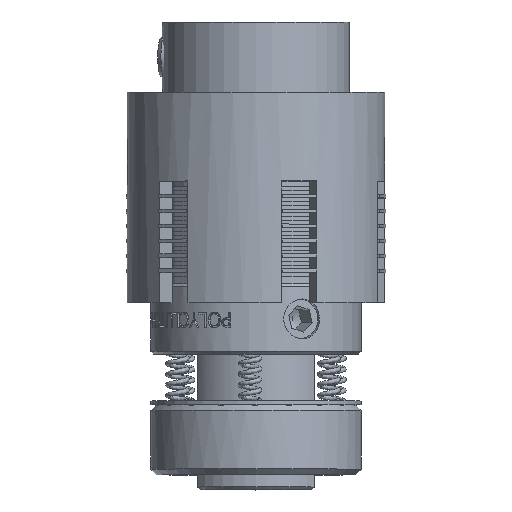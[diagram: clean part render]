
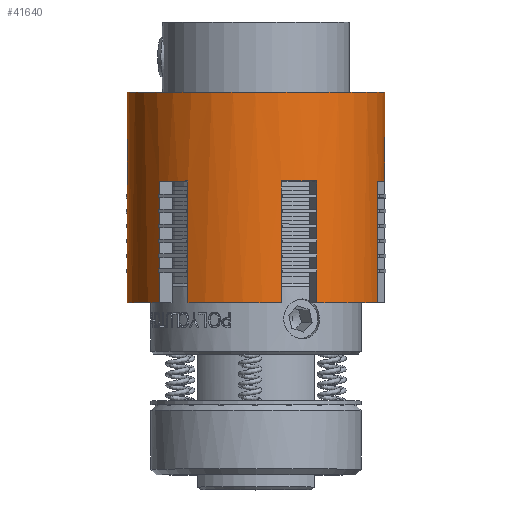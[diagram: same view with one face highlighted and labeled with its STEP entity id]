
A CAD part, top view. The second image highlights one B-rep face of the part: STEP entity #41640.
In plain terms, the highlighted cylindrical face has radius 17.462 mm (diameter 34.925 mm), a full revolution.
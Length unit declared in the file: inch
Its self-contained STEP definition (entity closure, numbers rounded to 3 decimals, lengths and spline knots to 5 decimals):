
#41060=CARTESIAN_POINT('',(0.63906,0.475,-0.25349));
#41061=VERTEX_POINT('',#41060);
#41062=CARTESIAN_POINT('',(0.63906,1.125,-0.25349));
#41063=VERTEX_POINT('',#41062);
#41064=CARTESIAN_POINT('',(0.63906,0.475,-0.25349));
#41065=DIRECTION('',(0.0,1.0,0.0));
#41066=VECTOR('',#41065,0.65);
#41067=LINE('',#41064,#41066);
#41068=EDGE_CURVE('',#41061,#41063,#41067,.T.);
#41100=CARTESIAN_POINT('',(0.53906,0.475,0.4267));
#41101=VERTEX_POINT('',#41100);
#41102=CARTESIAN_POINT('',(0.53906,1.125,0.4267));
#41103=VERTEX_POINT('',#41102);
#41104=CARTESIAN_POINT('',(0.53906,0.475,0.4267));
#41105=DIRECTION('',(0.0,1.0,0.0));
#41106=VECTOR('',#41105,0.65);
#41107=LINE('',#41104,#41106);
#41108=EDGE_CURVE('',#41101,#41103,#41107,.T.);
#41140=CARTESIAN_POINT('',(-0.63906,0.475,0.25349));
#41141=VERTEX_POINT('',#41140);
#41142=CARTESIAN_POINT('',(-0.63906,1.125,0.25349));
#41143=VERTEX_POINT('',#41142);
#41144=CARTESIAN_POINT('',(-0.63906,0.475,0.25349));
#41145=DIRECTION('',(0.0,1.0,0.0));
#41146=VECTOR('',#41145,0.65);
#41147=LINE('',#41144,#41146);
#41148=EDGE_CURVE('',#41141,#41143,#41147,.T.);
#41180=CARTESIAN_POINT('',(-0.53906,0.475,-0.4267));
#41181=VERTEX_POINT('',#41180);
#41182=CARTESIAN_POINT('',(-0.53906,1.125,-0.4267));
#41183=VERTEX_POINT('',#41182);
#41184=CARTESIAN_POINT('',(-0.53906,0.475,-0.4267));
#41185=DIRECTION('',(0.0,1.0,0.0));
#41186=VECTOR('',#41185,0.65);
#41187=LINE('',#41184,#41186);
#41188=EDGE_CURVE('',#41181,#41183,#41187,.T.);
#41220=CARTESIAN_POINT('',(-0.63906,0.475,-0.25349));
#41221=VERTEX_POINT('',#41220);
#41222=CARTESIAN_POINT('',(0.,0.475,0.));
#41223=DIRECTION('',(0.0,-1.0,0.0));
#41224=DIRECTION('',(1.0,0.0,0.0));
#41225=AXIS2_PLACEMENT_3D('',#41222,#41223,#41224);
#41226=CIRCLE('',#41225,0.6875);
#41227=EDGE_CURVE('',#41221,#41181,#41226,.T.);
#41253=CARTESIAN_POINT('',(-0.53906,0.475,0.4267));
#41254=VERTEX_POINT('',#41253);
#41255=CARTESIAN_POINT('',(0.,0.475,0.));
#41256=DIRECTION('',(0.0,-1.0,0.0));
#41257=DIRECTION('',(1.0,0.0,0.0));
#41258=AXIS2_PLACEMENT_3D('',#41255,#41256,#41257);
#41259=CIRCLE('',#41258,0.6875);
#41260=EDGE_CURVE('',#41254,#41141,#41259,.T.);
#41286=CARTESIAN_POINT('',(0.63906,0.475,0.25349));
#41287=VERTEX_POINT('',#41286);
#41288=CARTESIAN_POINT('',(0.,0.475,0.));
#41289=DIRECTION('',(0.0,-1.0,0.0));
#41290=DIRECTION('',(1.0,0.0,0.0));
#41291=AXIS2_PLACEMENT_3D('',#41288,#41289,#41290);
#41292=CIRCLE('',#41291,0.6875);
#41293=EDGE_CURVE('',#41287,#41101,#41292,.T.);
#41319=CARTESIAN_POINT('',(0.53906,0.475,-0.4267));
#41320=VERTEX_POINT('',#41319);
#41321=CARTESIAN_POINT('',(0.,0.475,0.));
#41322=DIRECTION('',(0.0,-1.0,0.0));
#41323=DIRECTION('',(1.0,0.0,0.0));
#41324=AXIS2_PLACEMENT_3D('',#41321,#41322,#41323);
#41325=CIRCLE('',#41324,0.6875);
#41326=EDGE_CURVE('',#41320,#41061,#41325,.T.);
#41352=CARTESIAN_POINT('',(0.53906,1.125,-0.4267));
#41353=VERTEX_POINT('',#41352);
#41354=CARTESIAN_POINT('',(0.53906,1.125,-0.4267));
#41355=DIRECTION('',(0.0,-1.0,0.0));
#41356=VECTOR('',#41355,0.65);
#41357=LINE('',#41354,#41356);
#41358=EDGE_CURVE('',#41353,#41320,#41357,.T.);
#41383=CARTESIAN_POINT('',(-0.53906,1.125,0.4267));
#41384=VERTEX_POINT('',#41383);
#41385=CARTESIAN_POINT('',(-0.53906,1.125,0.4267));
#41386=DIRECTION('',(0.0,-1.0,0.0));
#41387=VECTOR('',#41386,0.65);
#41388=LINE('',#41385,#41387);
#41389=EDGE_CURVE('',#41384,#41254,#41388,.T.);
#41414=CARTESIAN_POINT('',(0.63906,1.125,0.25349));
#41415=VERTEX_POINT('',#41414);
#41416=CARTESIAN_POINT('',(0.63906,1.125,0.25349));
#41417=DIRECTION('',(0.0,-1.0,0.0));
#41418=VECTOR('',#41417,0.65);
#41419=LINE('',#41416,#41418);
#41420=EDGE_CURVE('',#41415,#41287,#41419,.T.);
#41445=CARTESIAN_POINT('',(-0.63906,1.125,-0.25349));
#41446=VERTEX_POINT('',#41445);
#41447=CARTESIAN_POINT('',(-0.63906,1.125,-0.25349));
#41448=DIRECTION('',(0.0,-1.0,0.0));
#41449=VECTOR('',#41448,0.65);
#41450=LINE('',#41447,#41449);
#41451=EDGE_CURVE('',#41446,#41221,#41450,.T.);
#41486=CARTESIAN_POINT('',(0.1,1.125,0.68019));
#41487=VERTEX_POINT('',#41486);
#41494=CARTESIAN_POINT('',(0.,1.125,0.));
#41495=DIRECTION('',(0.0,-1.0,0.0));
#41496=DIRECTION('',(1.0,0.0,0.0));
#41497=AXIS2_PLACEMENT_3D('',#41494,#41495,#41496);
#41498=CIRCLE('',#41497,0.6875);
#41499=EDGE_CURVE('',#41103,#41487,#41498,.T.);
#41518=CARTESIAN_POINT('',(0.,1.125,0.));
#41519=DIRECTION('',(0.0,-1.0,0.0));
#41520=DIRECTION('',(1.0,0.0,0.0));
#41521=AXIS2_PLACEMENT_3D('',#41518,#41519,#41520);
#41522=CIRCLE('',#41521,0.6875);
#41523=EDGE_CURVE('',#41063,#41415,#41522,.T.);
#41528=CARTESIAN_POINT('',(0.,0.5625,0.));
#41529=DIRECTION('',(0.,-1.0,0.));
#41530=DIRECTION('',(1.0,0.0,0.0));
#41531=AXIS2_PLACEMENT_3D('',#41528,#41529,#41530);
#41532=CYLINDRICAL_SURFACE('',#41531,0.6875);
#41533=CARTESIAN_POINT('',(0.6875,0.,0.));
#41534=VERTEX_POINT('',#41533);
#41535=CARTESIAN_POINT('',(0.,0.,0.));
#41536=DIRECTION('',(0.0,-1.0,0.0));
#41537=DIRECTION('',(1.0,0.0,0.0));
#41538=AXIS2_PLACEMENT_3D('',#41535,#41536,#41537);
#41539=CIRCLE('',#41538,0.6875);
#41540=EDGE_CURVE('',#41534,#41534,#41539,.T.);
#41541=ORIENTED_EDGE('',*,*,#41540,.F.);
#41542=EDGE_LOOP('',(#41541));
#41543=FACE_OUTER_BOUND('',#41542,.T.);
#41544=ORIENTED_EDGE('',*,*,#41358,.T.);
#41545=ORIENTED_EDGE('',*,*,#41326,.T.);
#41546=ORIENTED_EDGE('',*,*,#41068,.T.);
#41547=ORIENTED_EDGE('',*,*,#41523,.T.);
#41548=ORIENTED_EDGE('',*,*,#41420,.T.);
#41549=ORIENTED_EDGE('',*,*,#41293,.T.);
#41550=ORIENTED_EDGE('',*,*,#41108,.T.);
#41551=ORIENTED_EDGE('',*,*,#41499,.T.);
#41552=CARTESIAN_POINT('',(0.1,0.475,0.68019));
#41553=VERTEX_POINT('',#41552);
#41554=CARTESIAN_POINT('',(0.1,1.125,0.68019));
#41555=DIRECTION('',(0.0,-1.0,0.0));
#41556=VECTOR('',#41555,0.65);
#41557=LINE('',#41554,#41556);
#41558=EDGE_CURVE('',#41487,#41553,#41557,.T.);
#41559=ORIENTED_EDGE('',*,*,#41558,.T.);
#41560=CARTESIAN_POINT('',(-0.1,0.475,0.68019));
#41561=VERTEX_POINT('',#41560);
#41562=CARTESIAN_POINT('',(0.,0.475,0.));
#41563=DIRECTION('',(0.0,-1.0,0.0));
#41564=DIRECTION('',(1.0,0.0,0.0));
#41565=AXIS2_PLACEMENT_3D('',#41562,#41563,#41564);
#41566=CIRCLE('',#41565,0.6875);
#41567=EDGE_CURVE('',#41553,#41561,#41566,.T.);
#41568=ORIENTED_EDGE('',*,*,#41567,.T.);
#41569=CARTESIAN_POINT('',(-0.1,1.125,0.68019));
#41570=VERTEX_POINT('',#41569);
#41571=CARTESIAN_POINT('',(-0.1,0.475,0.68019));
#41572=DIRECTION('',(0.0,1.0,0.0));
#41573=VECTOR('',#41572,0.65);
#41574=LINE('',#41571,#41573);
#41575=EDGE_CURVE('',#41561,#41570,#41574,.T.);
#41576=ORIENTED_EDGE('',*,*,#41575,.T.);
#41577=CARTESIAN_POINT('',(0.,1.125,0.));
#41578=DIRECTION('',(0.0,-1.0,0.0));
#41579=DIRECTION('',(1.0,0.0,0.0));
#41580=AXIS2_PLACEMENT_3D('',#41577,#41578,#41579);
#41581=CIRCLE('',#41580,0.6875);
#41582=EDGE_CURVE('',#41570,#41384,#41581,.T.);
#41583=ORIENTED_EDGE('',*,*,#41582,.T.);
#41584=ORIENTED_EDGE('',*,*,#41389,.T.);
#41585=ORIENTED_EDGE('',*,*,#41260,.T.);
#41586=ORIENTED_EDGE('',*,*,#41148,.T.);
#41587=CARTESIAN_POINT('',(0.,1.125,0.));
#41588=DIRECTION('',(0.0,-1.0,0.0));
#41589=DIRECTION('',(1.0,0.0,0.0));
#41590=AXIS2_PLACEMENT_3D('',#41587,#41588,#41589);
#41591=CIRCLE('',#41590,0.6875);
#41592=EDGE_CURVE('',#41143,#41446,#41591,.T.);
#41593=ORIENTED_EDGE('',*,*,#41592,.T.);
#41594=ORIENTED_EDGE('',*,*,#41451,.T.);
#41595=ORIENTED_EDGE('',*,*,#41227,.T.);
#41596=ORIENTED_EDGE('',*,*,#41188,.T.);
#41597=CARTESIAN_POINT('',(-0.1,1.125,-0.68019));
#41598=VERTEX_POINT('',#41597);
#41599=CARTESIAN_POINT('',(0.,1.125,0.));
#41600=DIRECTION('',(0.0,-1.0,0.0));
#41601=DIRECTION('',(1.0,0.0,0.0));
#41602=AXIS2_PLACEMENT_3D('',#41599,#41600,#41601);
#41603=CIRCLE('',#41602,0.6875);
#41604=EDGE_CURVE('',#41183,#41598,#41603,.T.);
#41605=ORIENTED_EDGE('',*,*,#41604,.T.);
#41606=CARTESIAN_POINT('',(-0.1,0.475,-0.68019));
#41607=VERTEX_POINT('',#41606);
#41608=CARTESIAN_POINT('',(-0.1,1.125,-0.68019));
#41609=DIRECTION('',(0.0,-1.0,0.0));
#41610=VECTOR('',#41609,0.65);
#41611=LINE('',#41608,#41610);
#41612=EDGE_CURVE('',#41598,#41607,#41611,.T.);
#41613=ORIENTED_EDGE('',*,*,#41612,.T.);
#41614=CARTESIAN_POINT('',(0.1,0.475,-0.68019));
#41615=VERTEX_POINT('',#41614);
#41616=CARTESIAN_POINT('',(0.,0.475,0.));
#41617=DIRECTION('',(0.0,-1.0,0.0));
#41618=DIRECTION('',(1.0,0.0,0.0));
#41619=AXIS2_PLACEMENT_3D('',#41616,#41617,#41618);
#41620=CIRCLE('',#41619,0.6875);
#41621=EDGE_CURVE('',#41607,#41615,#41620,.T.);
#41622=ORIENTED_EDGE('',*,*,#41621,.T.);
#41623=CARTESIAN_POINT('',(0.1,1.125,-0.68019));
#41624=VERTEX_POINT('',#41623);
#41625=CARTESIAN_POINT('',(0.1,0.475,-0.68019));
#41626=DIRECTION('',(0.0,1.0,0.0));
#41627=VECTOR('',#41626,0.65);
#41628=LINE('',#41625,#41627);
#41629=EDGE_CURVE('',#41615,#41624,#41628,.T.);
#41630=ORIENTED_EDGE('',*,*,#41629,.T.);
#41631=CARTESIAN_POINT('',(0.,1.125,0.));
#41632=DIRECTION('',(0.0,-1.0,0.0));
#41633=DIRECTION('',(1.0,0.0,0.0));
#41634=AXIS2_PLACEMENT_3D('',#41631,#41632,#41633);
#41635=CIRCLE('',#41634,0.6875);
#41636=EDGE_CURVE('',#41624,#41353,#41635,.T.);
#41637=ORIENTED_EDGE('',*,*,#41636,.T.);
#41638=EDGE_LOOP('',(#41544,#41545,#41546,#41547,#41548,#41549,#41550,#41551,#41559,#41568,#41576,#41583,#41584,#41585,#41586,#41593,#41594,#41595,#41596,#41605,#41613,#41622,#41630,#41637));
#41639=FACE_BOUND('',#41638,.T.);
#41640=ADVANCED_FACE('',(#41543,#41639),#41532,.T.);
